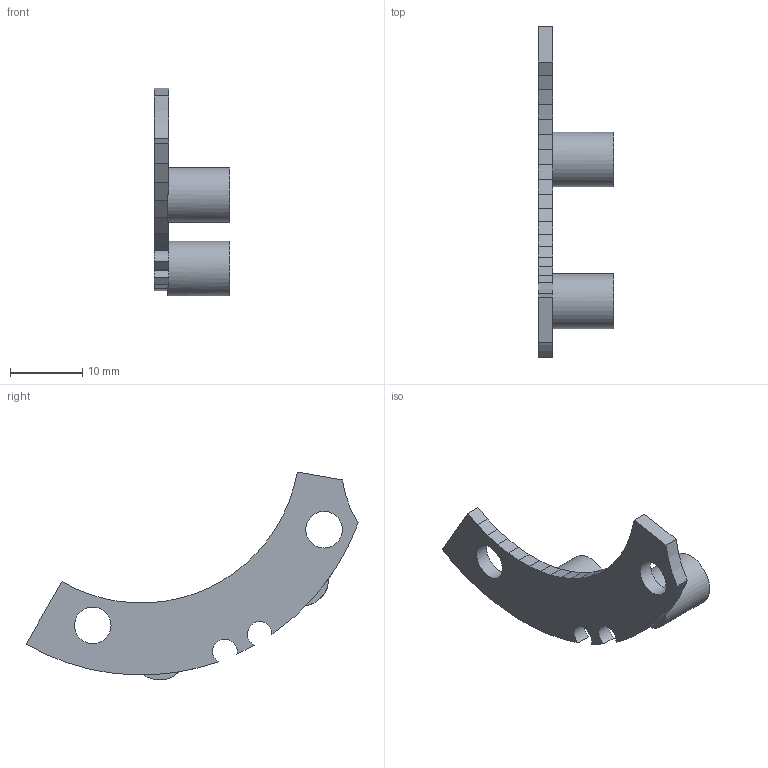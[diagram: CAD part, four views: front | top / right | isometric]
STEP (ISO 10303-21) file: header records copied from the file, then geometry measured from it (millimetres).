
FILE_DESCRIPTION(('Open CASCADE Model'),'2;1');
FILE_NAME('B3_R12_removable_rear_support','2026-09-28T18:24:08',( 'Author'),('Open CASCADE'),'Open CASCADE STEP processor 7.9', 'build123d','Unknown');
FILE_SCHEMA(('AUTOMOTIVE_DESIGN { 1 0 10303 214 1 1 1 1 }'));
Length unit declared in the file: millimetre
Products named in the file (1): B3_R12_removable_rear_support
Bounding box: 10.5 x 46.09 x 28.87 mm (x, y, z)
Volume: 1621.9 mm3; surface area: 1717.8 mm2
Topology: 1 solids, 1 shells, 58 faces, 162 edges, 108 vertices
Faces by surface type: plane 49, cylinder 9
Full cylindrical faces by diameter (mm): 2.6 x2, 5.08 x2, 7.6 x2
Entity records: 3957 total; most frequent: CARTESIAN_POINT 697, DIRECTION 592, LINE 410, VECTOR 410, ORIENTED_EDGE 324, PCURVE 324, DEFINITIONAL_REPRESENTATION 324, EDGE_CURVE 162
